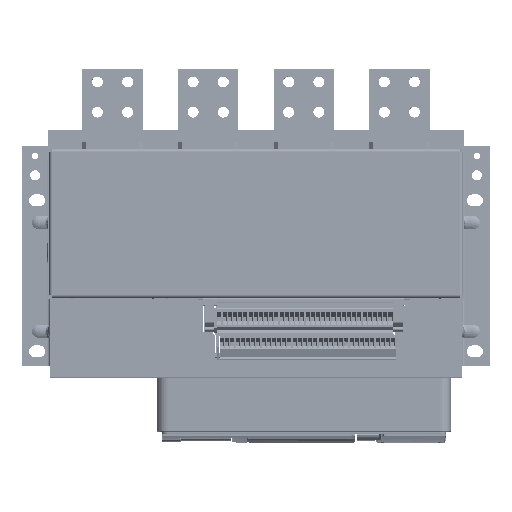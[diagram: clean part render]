
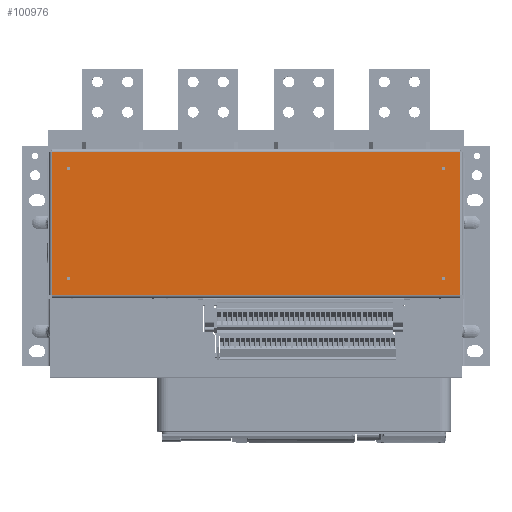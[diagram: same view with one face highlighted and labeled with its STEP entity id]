
A CAD part, top view. The second image highlights one B-rep face of the part: STEP entity #100976.
In plain terms, the highlighted planar face has unit normal (0, 0, 1) as drawn and (0, -1, 0) by its records, which use the part's own axes.
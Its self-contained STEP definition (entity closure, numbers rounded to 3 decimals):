
#3488=FACE_BOUND('',#12694,.T.);
#3489=FACE_BOUND('',#12695,.T.);
#3490=FACE_BOUND('',#12696,.T.);
#3491=FACE_BOUND('',#12697,.T.);
#6990=FACE_OUTER_BOUND('',#12693,.T.);
#12693=EDGE_LOOP('',(#81094,#81095,#81096,#81097));
#12694=EDGE_LOOP('',(#81098));
#12695=EDGE_LOOP('',(#81099));
#12696=EDGE_LOOP('',(#81100));
#12697=EDGE_LOOP('',(#81101));
#17441=CIRCLE('',#108586,1.75);
#17442=CIRCLE('',#108587,1.75);
#17443=CIRCLE('',#108588,1.75);
#17444=CIRCLE('',#108589,1.75);
#24235=LINE('',#199115,#35077);
#24236=LINE('',#199118,#35078);
#24237=LINE('',#199119,#35079);
#24238=LINE('',#199120,#35080);
#35077=VECTOR('',#127497,405.);
#35078=VECTOR('',#127500,405.);
#35079=VECTOR('',#127501,142.);
#35080=VECTOR('',#127502,142.);
#45530=VERTEX_POINT('',#199059);
#45540=VERTEX_POINT('',#199093);
#45542=VERTEX_POINT('',#199101);
#45543=VERTEX_POINT('',#199117);
#45544=VERTEX_POINT('',#199121);
#45545=VERTEX_POINT('',#199123);
#45546=VERTEX_POINT('',#199125);
#45547=VERTEX_POINT('',#199127);
#58098=EDGE_CURVE('',#45530,#45542,#24235,.T.);
#58099=EDGE_CURVE('',#45540,#45543,#24236,.T.);
#58100=EDGE_CURVE('',#45543,#45530,#24237,.T.);
#58101=EDGE_CURVE('',#45542,#45540,#24238,.T.);
#58102=EDGE_CURVE('',#45544,#45544,#17441,.T.);
#58103=EDGE_CURVE('',#45545,#45545,#17442,.T.);
#58104=EDGE_CURVE('',#45546,#45546,#17443,.T.);
#58105=EDGE_CURVE('',#45547,#45547,#17444,.T.);
#81094=ORIENTED_EDGE('',*,*,#58099,.T.);
#81095=ORIENTED_EDGE('',*,*,#58100,.T.);
#81096=ORIENTED_EDGE('',*,*,#58098,.T.);
#81097=ORIENTED_EDGE('',*,*,#58101,.T.);
#81098=ORIENTED_EDGE('',*,*,#58102,.F.);
#81099=ORIENTED_EDGE('',*,*,#58103,.F.);
#81100=ORIENTED_EDGE('',*,*,#58104,.F.);
#81101=ORIENTED_EDGE('',*,*,#58105,.F.);
#95821=PLANE('',#108585);
#100976=ADVANCED_FACE('',(#6990,#3488,#3489,#3490,#3491),#95821,.F.);
#108585=AXIS2_PLACEMENT_3D('',#199116,#127498,#127499);
#108586=AXIS2_PLACEMENT_3D('',#199122,#127503,#127504);
#108587=AXIS2_PLACEMENT_3D('',#199124,#127505,#127506);
#108588=AXIS2_PLACEMENT_3D('',#199126,#127507,#127508);
#108589=AXIS2_PLACEMENT_3D('',#199128,#127509,#127510);
#127497=DIRECTION('',(-1.,0.,0.));
#127498=DIRECTION('center_axis',(0.,1.,0.));
#127499=DIRECTION('ref_axis',(1.,0.,0.));
#127500=DIRECTION('',(1.,0.,0.));
#127501=DIRECTION('',(0.,0.,1.));
#127502=DIRECTION('',(0.,0.,-1.));
#127503=DIRECTION('center_axis',(0.,-1.,0.));
#127504=DIRECTION('ref_axis',(1.,0.,0.));
#127505=DIRECTION('center_axis',(0.,-1.,0.));
#127506=DIRECTION('ref_axis',(1.,0.,0.));
#127507=DIRECTION('center_axis',(0.,-1.,0.));
#127508=DIRECTION('ref_axis',(1.,0.,0.));
#127509=DIRECTION('center_axis',(0.,-1.,0.));
#127510=DIRECTION('ref_axis',(1.,0.,0.));
#199059=CARTESIAN_POINT('',(202.5,-79.,71.));
#199093=CARTESIAN_POINT('',(-202.5,-79.,-71.));
#199101=CARTESIAN_POINT('',(-202.5,-79.,71.));
#199115=CARTESIAN_POINT('',(202.5,-79.,71.));
#199116=CARTESIAN_POINT('Origin',(0.,-79.,0.));
#199117=CARTESIAN_POINT('',(202.5,-79.,-71.));
#199118=CARTESIAN_POINT('',(-202.5,-79.,-71.));
#199119=CARTESIAN_POINT('',(202.5,-79.,-71.));
#199120=CARTESIAN_POINT('',(-202.5,-79.,71.));
#199121=CARTESIAN_POINT('',(-188.25,-79.,54.5));
#199122=CARTESIAN_POINT('Origin',(-186.5,-79.,54.5));
#199123=CARTESIAN_POINT('',(-188.25,-79.,-54.5));
#199124=CARTESIAN_POINT('Origin',(-186.5,-79.,-54.5));
#199125=CARTESIAN_POINT('',(184.75,-79.,-54.5));
#199126=CARTESIAN_POINT('Origin',(186.5,-79.,-54.5));
#199127=CARTESIAN_POINT('',(184.75,-79.,54.5));
#199128=CARTESIAN_POINT('Origin',(186.5,-79.,54.5));
